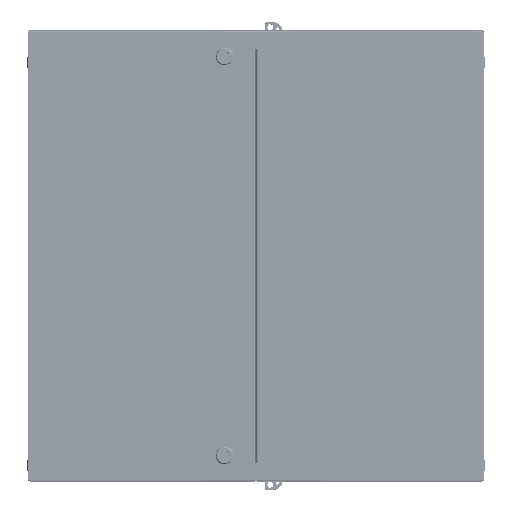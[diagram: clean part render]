
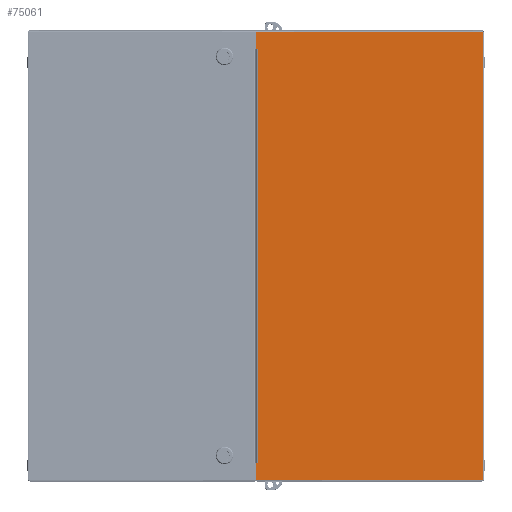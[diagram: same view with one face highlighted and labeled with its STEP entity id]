
A CAD part, top view. The second image highlights one B-rep face of the part: STEP entity #75061.
In plain terms, the highlighted planar face has unit normal (0, 0, 1).
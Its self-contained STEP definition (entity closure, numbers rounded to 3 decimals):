
#6275=PLANE('',#81123);
#10343=FACE_OUTER_BOUND('',#14860,.T.);
#14860=EDGE_LOOP('',(#66467,#66468,#66469,#66470,#66471,#66472,#66473,#66474,
#66475,#66476,#66477,#66478));
#19827=LINE('',#143528,#25492);
#19925=LINE('',#143854,#25590);
#19932=LINE('',#143981,#25597);
#19935=LINE('',#144024,#25600);
#19940=LINE('',#144038,#25605);
#19943=LINE('',#144045,#25608);
#19947=LINE('',#144052,#25612);
#19949=LINE('',#144056,#25614);
#19952=LINE('',#144062,#25617);
#19956=LINE('',#144070,#25621);
#19957=LINE('',#144074,#25622);
#19960=LINE('',#144078,#25625);
#25492=VECTOR('',#96227,0.394);
#25590=VECTOR('',#96457,0.394);
#25597=VECTOR('',#96474,0.394);
#25600=VECTOR('',#96481,0.394);
#25605=VECTOR('',#96498,0.394);
#25608=VECTOR('',#96503,0.394);
#25612=VECTOR('',#96509,0.394);
#25614=VECTOR('',#96513,0.394);
#25617=VECTOR('',#96518,0.394);
#25621=VECTOR('',#96526,0.394);
#25622=VECTOR('',#96531,0.394);
#25625=VECTOR('',#96536,0.394);
#35191=VERTEX_POINT('',#143525);
#35192=VERTEX_POINT('',#143527);
#35279=VERTEX_POINT('',#143829);
#35280=VERTEX_POINT('',#143846);
#35285=VERTEX_POINT('',#143979);
#35287=VERTEX_POINT('',#144023);
#35290=VERTEX_POINT('',#144037);
#35292=VERTEX_POINT('',#144043);
#35293=VERTEX_POINT('',#144044);
#35296=VERTEX_POINT('',#144055);
#35298=VERTEX_POINT('',#144061);
#35301=VERTEX_POINT('',#144072);
#45718=EDGE_CURVE('',#35192,#35191,#19827,.T.);
#45847=EDGE_CURVE('',#35279,#35280,#19925,.T.);
#45861=EDGE_CURVE('',#35280,#35285,#19932,.T.);
#45865=EDGE_CURVE('',#35287,#35192,#19935,.T.);
#45872=EDGE_CURVE('',#35290,#35287,#19940,.T.);
#45875=EDGE_CURVE('',#35292,#35293,#19943,.T.);
#45879=EDGE_CURVE('',#35293,#35290,#19947,.T.);
#45881=EDGE_CURVE('',#35191,#35296,#19949,.T.);
#45884=EDGE_CURVE('',#35296,#35298,#19952,.T.);
#45889=EDGE_CURVE('',#35292,#35285,#19956,.T.);
#45891=EDGE_CURVE('',#35301,#35298,#19957,.T.);
#45894=EDGE_CURVE('',#35301,#35279,#19960,.T.);
#66467=ORIENTED_EDGE('',*,*,#45872,.T.);
#66468=ORIENTED_EDGE('',*,*,#45865,.T.);
#66469=ORIENTED_EDGE('',*,*,#45718,.T.);
#66470=ORIENTED_EDGE('',*,*,#45881,.T.);
#66471=ORIENTED_EDGE('',*,*,#45884,.T.);
#66472=ORIENTED_EDGE('',*,*,#45891,.F.);
#66473=ORIENTED_EDGE('',*,*,#45894,.T.);
#66474=ORIENTED_EDGE('',*,*,#45847,.T.);
#66475=ORIENTED_EDGE('',*,*,#45861,.T.);
#66476=ORIENTED_EDGE('',*,*,#45889,.F.);
#66477=ORIENTED_EDGE('',*,*,#45875,.T.);
#66478=ORIENTED_EDGE('',*,*,#45879,.T.);
#75061=ADVANCED_FACE('',(#10343),#6275,.T.);
#81123=AXIS2_PLACEMENT_3D('',#144077,#96534,#96535);
#96227=DIRECTION('',(1.,0.,0.));
#96457=DIRECTION('',(0.,1.,0.));
#96474=DIRECTION('',(-1.,0.,0.));
#96481=DIRECTION('',(0.,-1.,0.));
#96498=DIRECTION('',(-1.,0.,0.));
#96503=DIRECTION('',(1.,0.,0.));
#96509=DIRECTION('',(0.,-1.,0.));
#96513=DIRECTION('',(0.,-1.,0.));
#96518=DIRECTION('',(-1.,0.,0.));
#96526=DIRECTION('',(0.,1.,0.));
#96531=DIRECTION('',(0.,1.,0.));
#96534=DIRECTION('center_axis',(0.,0.,1.));
#96535=DIRECTION('ref_axis',(1.,0.,0.));
#96536=DIRECTION('',(1.,0.,0.));
#143525=CARTESIAN_POINT('',(-7.589,-13.969,0.055));
#143527=CARTESIAN_POINT('',(-7.589,-13.969,0.055));
#143528=CARTESIAN_POINT('',(-3.838,-13.969,0.055));
#143829=CARTESIAN_POINT('',(7.589,-15.102,0.055));
#143846=CARTESIAN_POINT('',(7.589,15.102,0.055));
#143854=CARTESIAN_POINT('',(7.589,7.594,0.055));
#143979=CARTESIAN_POINT('',(-7.675,15.102,0.055));
#143981=CARTESIAN_POINT('',(-3.838,15.102,0.055));
#144023=CARTESIAN_POINT('',(-7.589,13.969,0.055));
#144024=CARTESIAN_POINT('',(-7.589,-6.984,0.055));
#144037=CARTESIAN_POINT('',(-7.589,13.969,0.055));
#144038=CARTESIAN_POINT('',(-3.794,13.969,0.055));
#144043=CARTESIAN_POINT('',(-7.675,13.969,0.055));
#144044=CARTESIAN_POINT('',(-7.589,13.969,0.055));
#144045=CARTESIAN_POINT('',(-3.838,13.969,0.055));
#144052=CARTESIAN_POINT('',(-7.589,6.984,0.055));
#144055=CARTESIAN_POINT('',(-7.589,-13.969,0.055));
#144056=CARTESIAN_POINT('',(-7.589,-6.984,0.055));
#144061=CARTESIAN_POINT('',(-7.675,-13.969,0.055));
#144062=CARTESIAN_POINT('',(-3.794,-13.969,0.055));
#144070=CARTESIAN_POINT('',(-7.675,-15.188,0.055));
#144072=CARTESIAN_POINT('',(-7.675,-15.102,0.055));
#144074=CARTESIAN_POINT('',(-7.675,-15.188,0.055));
#144077=CARTESIAN_POINT('Origin',(0.,0.,
0.055));
#144078=CARTESIAN_POINT('',(3.795,-15.102,0.055));
